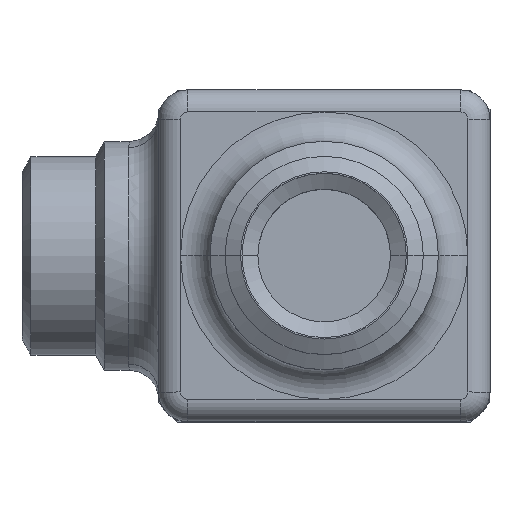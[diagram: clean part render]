
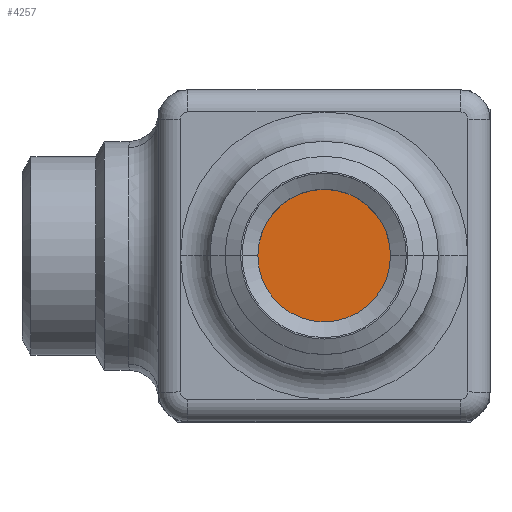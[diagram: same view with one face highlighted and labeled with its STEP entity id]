
A CAD part, top view. The second image highlights one B-rep face of the part: STEP entity #4257.
In plain terms, the highlighted planar face has unit normal (0, 0, 1).
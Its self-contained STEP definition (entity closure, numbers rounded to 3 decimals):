
#2031 = FACE_OUTER_BOUND ( 'NONE', #4237, .T. ) ;
#2032 = PLANE ( 'NONE',  #2033 ) ;
#2033 = AXIS2_PLACEMENT_3D ( 'NONE', #2034, #2035, #2036 ) ;
#2034 = CARTESIAN_POINT ( 'NONE',  ( 0., 0., 3. ) ) ;
#2035 = DIRECTION ( 'NONE',  ( 0., 0., 1. ) ) ;
#2036 = DIRECTION ( 'NONE',  ( 1., 0., 0. ) ) ;
#2150 = VERTEX_POINT ( 'NONE', #6373 ) ;
#2533 = CIRCLE ( 'NONE', #2534, 15.5 ) ;
#2534 = AXIS2_PLACEMENT_3D ( 'NONE', #2535, #2536, #2537 ) ;
#2535 = CARTESIAN_POINT ( 'NONE',  ( 0., 0., 3. ) ) ;
#2536 = DIRECTION ( 'NONE',  ( 0., 0., 1. ) ) ;
#2537 = DIRECTION ( 'NONE',  ( 1., 0., 0. ) ) ;
#2609 = CIRCLE ( 'NONE', #2610, 15.5 ) ;
#2610 = AXIS2_PLACEMENT_3D ( 'NONE', #2612, #2613, #2614 ) ;
#2612 = CARTESIAN_POINT ( 'NONE',  ( 0., 0., 3. ) ) ;
#2613 = DIRECTION ( 'NONE',  ( 0., 0., 1. ) ) ;
#2614 = DIRECTION ( 'NONE',  ( 1., 0., 0. ) ) ;
#4237 = EDGE_LOOP ( 'NONE', ( #4279, #4378 ) ) ;
#4257 = ADVANCED_FACE ( 'NONE', ( #2031 ), #2032, .T. ) ;
#4279 = ORIENTED_EDGE ( 'NONE', *, *, #5270, .T. ) ;
#4344 = EDGE_CURVE ( 'NONE', #4807, #2150, #2533, .T. ) ;
#4378 = ORIENTED_EDGE ( 'NONE', *, *, #4344, .T. ) ;
#4807 = VERTEX_POINT ( 'NONE', #5773 ) ;
#5270 = EDGE_CURVE ( 'NONE', #2150, #4807, #2609, .T. ) ;
#5773 = CARTESIAN_POINT ( 'NONE',  ( 15.5, 0., 3. ) ) ;
#6373 = CARTESIAN_POINT ( 'NONE',  ( -15.5, 0., 3. ) ) ;
